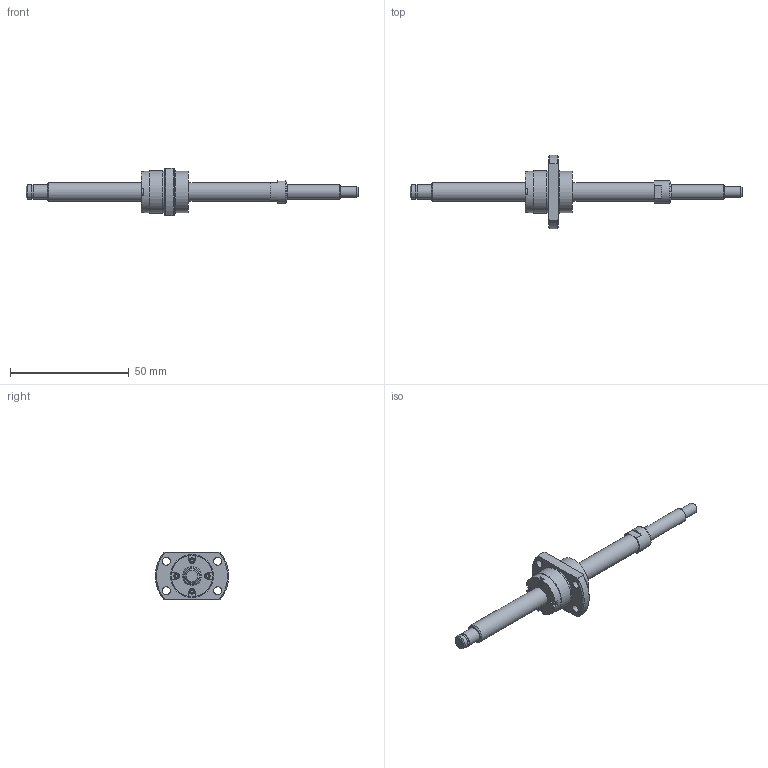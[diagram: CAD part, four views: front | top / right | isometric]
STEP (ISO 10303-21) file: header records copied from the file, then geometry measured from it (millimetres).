
FILE_DESCRIPTION(/* description */ ('STEP AP214'),/* implementation_level */ '2;1');
FILE_NAME(/* name */ 'SG0808-090R140C5B0X(39.5)',/* time_stamp */ '2026-07-21T16:52:41+02:00',/* author */ ('License CC BY-ND 4.0'),/* organization */ ('CADENAS'),/* preprocessor_version */ 'ST-DEVELOPER v20',/* originating_system */ 'PARTsolutions',/* authorisation */ ' ');
FILE_SCHEMA (('AUTOMOTIVE_DESIGN {1 0 10303 214 3 1 1}'));
Length unit declared in the file: millimetre
Products named in the file (3): SG0808-090R140C5B0X(39.5); SG0808-90R140C5B_shaft; SG0808 C5_nut
Assembly tree (2 placements, depth 2):
  SG0808-090R140C5B0X(39.5)
    SG0808-90R140C5B_shaft
    SG0808 C5_nut
Bounding box: 140 x 30.91 x 20 mm (x, y, z)
Volume: 11235.8 mm3; surface area: 6356 mm2
Topology: 2 solids, 2 shells, 107 faces, 242 edges, 157 vertices
Faces by surface type: plane 66, cylinder 27, cone 13, torus 1
Full cylindrical faces by diameter (mm): 2.25 x4, 3.4 x4, 4.5 x1, 5.7 x1, 6 x3, 8 x2, 9.5 x1, 17.45 x3, 18 x2
Entity records: 2921 total; most frequent: DIRECTION 500, CARTESIAN_POINT 498, ORIENTED_EDGE 418, EDGE_CURVE 209, AXIS2_PLACEMENT_3D 189, EDGE_LOOP 166, FACE_BOUND 166, VERTEX_POINT 155
